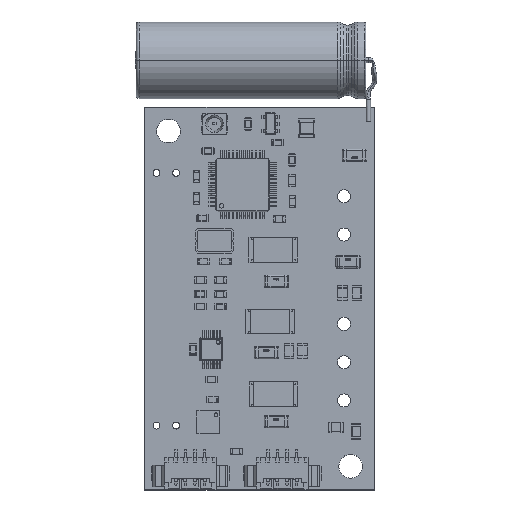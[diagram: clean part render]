
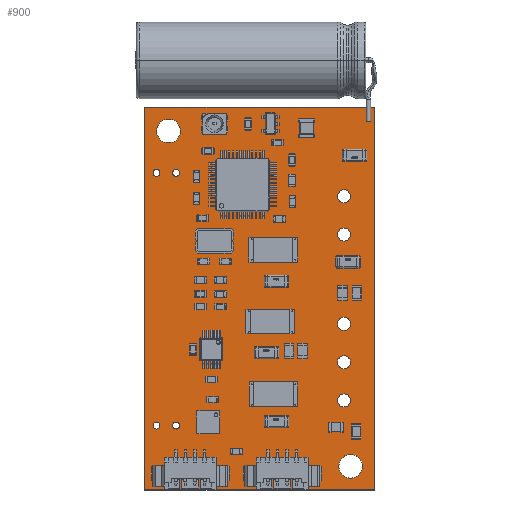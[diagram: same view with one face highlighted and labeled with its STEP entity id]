
A CAD part, top view. The second image highlights one B-rep face of the part: STEP entity #900.
In plain terms, the highlighted planar face has unit normal (0, 0, 1).
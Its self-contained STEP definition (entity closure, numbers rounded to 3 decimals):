
#375 = VERTEX_POINT('',#376);
#376 = CARTESIAN_POINT('',(131.5,31.5,0.));
#382 = EDGE_CURVE('',#375,#383,#385,.T.);
#383 = VERTEX_POINT('',#384);
#384 = CARTESIAN_POINT('',(131.5,81.5,0.));
#385 = LINE('',#386,#387);
#386 = CARTESIAN_POINT('',(131.5,31.5,0.));
#387 = VECTOR('',#388,1.);
#388 = DIRECTION('',(0.,1.,0.));
#413 = EDGE_CURVE('',#383,#414,#416,.T.);
#414 = VERTEX_POINT('',#415);
#415 = CARTESIAN_POINT('',(161.5,81.5,0.));
#416 = LINE('',#417,#418);
#417 = CARTESIAN_POINT('',(131.5,81.5,0.));
#418 = VECTOR('',#419,1.);
#419 = DIRECTION('',(1.,0.,0.));
#444 = EDGE_CURVE('',#414,#445,#447,.T.);
#445 = VERTEX_POINT('',#446);
#446 = CARTESIAN_POINT('',(161.5,31.5,0.));
#447 = LINE('',#448,#449);
#448 = CARTESIAN_POINT('',(161.5,81.5,0.));
#449 = VECTOR('',#450,1.);
#450 = DIRECTION('',(0.,-1.,0.));
#475 = EDGE_CURVE('',#445,#375,#476,.T.);
#476 = LINE('',#477,#478);
#477 = CARTESIAN_POINT('',(161.5,31.5,0.));
#478 = VECTOR('',#479,1.);
#479 = DIRECTION('',(-1.,0.,0.));
#499 = VERTEX_POINT('',#500);
#500 = CARTESIAN_POINT('',(133.475,39.915,0.));
#506 = EDGE_CURVE('',#499,#499,#507,.T.);
#507 = CIRCLE('',#508,0.45);
#508 = AXIS2_PLACEMENT_3D('',#509,#510,#511);
#509 = CARTESIAN_POINT('',(133.025,39.915,0.));
#510 = DIRECTION('',(0.,0.,1.));
#511 = DIRECTION('',(1.,0.,0.));
#532 = VERTEX_POINT('',#533);
#533 = CARTESIAN_POINT('',(136.04,39.915,0.));
#539 = EDGE_CURVE('',#532,#532,#540,.T.);
#540 = CIRCLE('',#541,0.45);
#541 = AXIS2_PLACEMENT_3D('',#542,#543,#544);
#542 = CARTESIAN_POINT('',(135.59,39.915,0.));
#543 = DIRECTION('',(0.,0.,1.));
#544 = DIRECTION('',(1.,0.,0.));
#565 = VERTEX_POINT('',#566);
#566 = CARTESIAN_POINT('',(133.475,72.935,0.));
#572 = EDGE_CURVE('',#565,#565,#573,.T.);
#573 = CIRCLE('',#574,0.45);
#574 = AXIS2_PLACEMENT_3D('',#575,#576,#577);
#575 = CARTESIAN_POINT('',(133.025,72.935,0.));
#576 = DIRECTION('',(0.,0.,1.));
#577 = DIRECTION('',(1.,0.,0.));
#598 = VERTEX_POINT('',#599);
#599 = CARTESIAN_POINT('',(136.04,72.935,0.));
#605 = EDGE_CURVE('',#598,#598,#606,.T.);
#606 = CIRCLE('',#607,0.45);
#607 = AXIS2_PLACEMENT_3D('',#608,#609,#610);
#608 = CARTESIAN_POINT('',(135.59,72.935,0.));
#609 = DIRECTION('',(0.,0.,1.));
#610 = DIRECTION('',(1.,0.,0.));
#631 = VERTEX_POINT('',#632);
#632 = CARTESIAN_POINT('',(136.15,78.4,0.));
#638 = EDGE_CURVE('',#631,#631,#639,.T.);
#639 = CIRCLE('',#640,1.55);
#640 = AXIS2_PLACEMENT_3D('',#641,#642,#643);
#641 = CARTESIAN_POINT('',(134.6,78.4,0.));
#642 = DIRECTION('',(0.,0.,1.));
#643 = DIRECTION('',(1.,0.,0.));
#664 = VERTEX_POINT('',#665);
#665 = CARTESIAN_POINT('',(158.375,48.2,0.));
#671 = EDGE_CURVE('',#664,#664,#672,.T.);
#672 = CIRCLE('',#673,0.85);
#673 = AXIS2_PLACEMENT_3D('',#674,#675,#676);
#674 = CARTESIAN_POINT('',(157.525,48.2,0.));
#675 = DIRECTION('',(0.,0.,1.));
#676 = DIRECTION('',(1.,0.,0.));
#697 = VERTEX_POINT('',#698);
#698 = CARTESIAN_POINT('',(159.95,34.6,0.));
#704 = EDGE_CURVE('',#697,#697,#705,.T.);
#705 = CIRCLE('',#706,1.55);
#706 = AXIS2_PLACEMENT_3D('',#707,#708,#709);
#707 = CARTESIAN_POINT('',(158.4,34.6,0.));
#708 = DIRECTION('',(0.,0.,1.));
#709 = DIRECTION('',(1.,0.,0.));
#730 = VERTEX_POINT('',#731);
#731 = CARTESIAN_POINT('',(158.375,43.2,0.));
#737 = EDGE_CURVE('',#730,#730,#738,.T.);
#738 = CIRCLE('',#739,0.85);
#739 = AXIS2_PLACEMENT_3D('',#740,#741,#742);
#740 = CARTESIAN_POINT('',(157.525,43.2,0.));
#741 = DIRECTION('',(0.,0.,1.));
#742 = DIRECTION('',(1.,0.,0.));
#763 = VERTEX_POINT('',#764);
#764 = CARTESIAN_POINT('',(158.375,69.875,0.));
#770 = EDGE_CURVE('',#763,#763,#771,.T.);
#771 = CIRCLE('',#772,0.85);
#772 = AXIS2_PLACEMENT_3D('',#773,#774,#775);
#773 = CARTESIAN_POINT('',(157.525,69.875,0.));
#774 = DIRECTION('',(0.,0.,1.));
#775 = DIRECTION('',(1.,0.,0.));
#796 = VERTEX_POINT('',#797);
#797 = CARTESIAN_POINT('',(158.375,53.2,0.));
#803 = EDGE_CURVE('',#796,#796,#804,.T.);
#804 = CIRCLE('',#805,0.85);
#805 = AXIS2_PLACEMENT_3D('',#806,#807,#808);
#806 = CARTESIAN_POINT('',(157.525,53.2,0.));
#807 = DIRECTION('',(0.,0.,1.));
#808 = DIRECTION('',(1.,0.,0.));
#829 = VERTEX_POINT('',#830);
#830 = CARTESIAN_POINT('',(158.375,64.875,0.));
#836 = EDGE_CURVE('',#829,#829,#837,.T.);
#837 = CIRCLE('',#838,0.85);
#838 = AXIS2_PLACEMENT_3D('',#839,#840,#841);
#839 = CARTESIAN_POINT('',(157.525,64.875,0.));
#840 = DIRECTION('',(0.,0.,1.));
#841 = DIRECTION('',(1.,0.,0.));
#900 = ADVANCED_FACE('',(#901,#907,#910,#913,#916,#919,#922,#925,#928,
    #931,#934,#937),#940,.T.);
#901 = FACE_BOUND('',#902,.F.);
#902 = EDGE_LOOP('',(#903,#904,#905,#906));
#903 = ORIENTED_EDGE('',*,*,#382,.T.);
#904 = ORIENTED_EDGE('',*,*,#413,.T.);
#905 = ORIENTED_EDGE('',*,*,#444,.T.);
#906 = ORIENTED_EDGE('',*,*,#475,.T.);
#907 = FACE_BOUND('',#908,.T.);
#908 = EDGE_LOOP('',(#909));
#909 = ORIENTED_EDGE('',*,*,#506,.F.);
#910 = FACE_BOUND('',#911,.T.);
#911 = EDGE_LOOP('',(#912));
#912 = ORIENTED_EDGE('',*,*,#539,.F.);
#913 = FACE_BOUND('',#914,.T.);
#914 = EDGE_LOOP('',(#915));
#915 = ORIENTED_EDGE('',*,*,#572,.F.);
#916 = FACE_BOUND('',#917,.T.);
#917 = EDGE_LOOP('',(#918));
#918 = ORIENTED_EDGE('',*,*,#605,.F.);
#919 = FACE_BOUND('',#920,.T.);
#920 = EDGE_LOOP('',(#921));
#921 = ORIENTED_EDGE('',*,*,#638,.F.);
#922 = FACE_BOUND('',#923,.T.);
#923 = EDGE_LOOP('',(#924));
#924 = ORIENTED_EDGE('',*,*,#671,.F.);
#925 = FACE_BOUND('',#926,.T.);
#926 = EDGE_LOOP('',(#927));
#927 = ORIENTED_EDGE('',*,*,#704,.F.);
#928 = FACE_BOUND('',#929,.T.);
#929 = EDGE_LOOP('',(#930));
#930 = ORIENTED_EDGE('',*,*,#737,.F.);
#931 = FACE_BOUND('',#932,.T.);
#932 = EDGE_LOOP('',(#933));
#933 = ORIENTED_EDGE('',*,*,#770,.F.);
#934 = FACE_BOUND('',#935,.T.);
#935 = EDGE_LOOP('',(#936));
#936 = ORIENTED_EDGE('',*,*,#803,.F.);
#937 = FACE_BOUND('',#938,.T.);
#938 = EDGE_LOOP('',(#939));
#939 = ORIENTED_EDGE('',*,*,#836,.F.);
#940 = PLANE('',#941);
#941 = AXIS2_PLACEMENT_3D('',#942,#943,#944);
#942 = CARTESIAN_POINT('',(131.5,31.5,0.));
#943 = DIRECTION('',(0.,0.,1.));
#944 = DIRECTION('',(1.,0.,0.));
